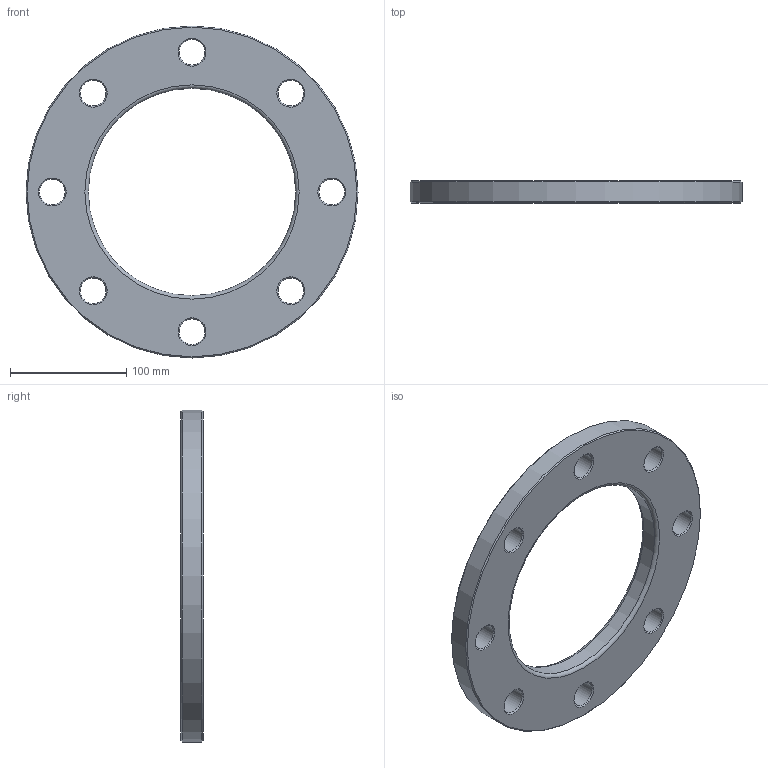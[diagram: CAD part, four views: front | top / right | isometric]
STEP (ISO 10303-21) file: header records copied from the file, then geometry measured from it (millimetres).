
FILE_DESCRIPTION(/* description */ ('Unknown'),/* implementation_level */ '2;1');
FILE_NAME(/* name */ 'FZ160C',/* time_stamp */ '2021-03-15T12:00:39+01:00',/* author */ ('Unknown'),/* organization */ ('Unknown'),/* preprocessor_version */ 'ST-DEVELOPER v16.7',/* originating_system */ 'Solid Edge',/* authorisation */ 'Unknown');
FILE_SCHEMA (('AUTOMOTIVE_DESIGN {1 0 10303 214 3 1 1}'));
Length unit declared in the file: millimetre
Products named in the file (1): FZ160C
Bounding box: 285 x 19 x 285 mm (x, y, z)
Volume: 677859.3 mm3; surface area: 106768.2 mm2
Topology: 1 solids, 1 shells, 32 faces, 94 edges, 64 vertices
Faces by surface type: cone 18, cylinder 10, plane 2, torus 2
Full cylindrical faces by diameter (mm): 22 x8, 178 x1, 285 x1
Entity records: 790 total; most frequent: DIRECTION 146, CARTESIAN_POINT 113, ORIENTED_EDGE 80, EDGE_LOOP 80, FACE_BOUND 80, AXIS2_PLACEMENT_3D 73, EDGE_CURVE 40, VERTEX_POINT 40
